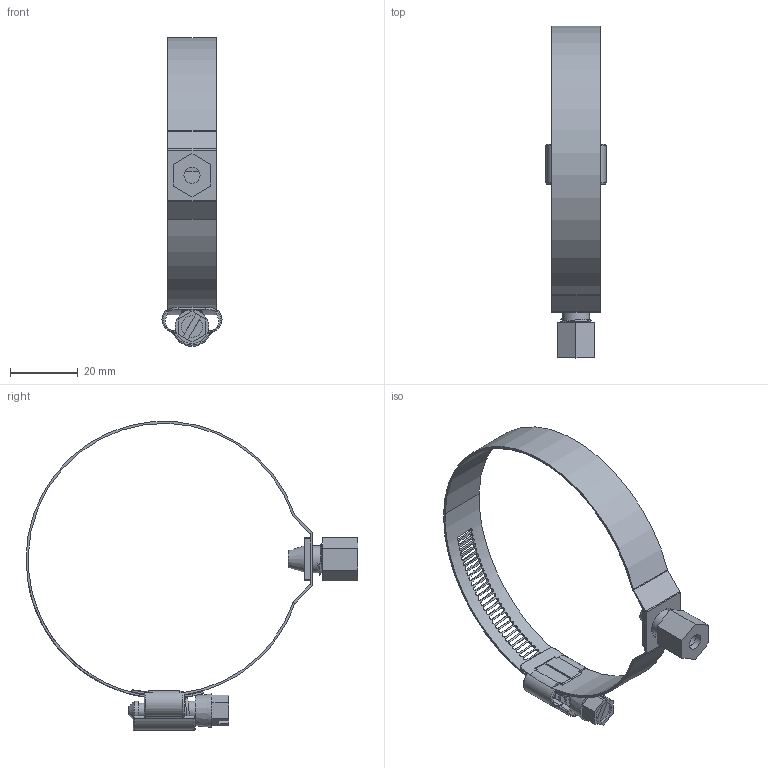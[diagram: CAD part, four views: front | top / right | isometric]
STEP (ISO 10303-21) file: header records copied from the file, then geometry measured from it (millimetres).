
FILE_DESCRIPTION(/* description */ (''),/* implementation_level */ '2;1');
FILE_NAME(/* name */ 'SPARE-MFLERCLMP-3.0 ASSEMBLY.stp',/* time_stamp */ '2022-08-04T14:35:36-04:00',/* author */ ('Justin'),/* organization */ (''),/* preprocessor_version */ 'ST-DEVELOPER v19.2',/* originating_system */ 'Autodesk Inventor 2023',/* authorisation */ '');
FILE_SCHEMA (('AUTOMOTIVE_DESIGN { 1 0 10303 214 3 1 1 }'));
Length unit declared in the file: inch
Products named in the file (7): HOSE CLAMP; Clamp REV A; WORM GEAR HOUSING; FERRULE SEAT; COMPRESSION SLEEVE; COMPRESSION NUT; Dynaflo Worm Screw
Assembly tree (6 placements, depth 2):
  HOSE CLAMP
    Clamp REV A
    WORM GEAR HOUSING
    FERRULE SEAT
    COMPRESSION SLEEVE
    COMPRESSION NUT
    Dynaflo Worm Screw
Bounding box: 17.78 x 98.3 x 91.43 mm (x, y, z)
Volume: 5469.9 mm3; surface area: 12770.3 mm2
Topology: 6 solids, 6 shells, 367 faces, 1024 edges, 678 vertices
Faces by surface type: cylinder 164, plane 158, torus 21, bspline 16, cone 8
Full cylindrical faces by diameter (mm): 4.47 x1, 4.762 x1, 4.775 x1, 4.953 x1, 5.588 x3, 8.026 x4, 8.376 x4, 8.382 x2, 9.525 x1
Entity records: 18116 total; most frequent: CARTESIAN_POINT 8495, ORIENTED_EDGE 2046, DIRECTION 1799, EDGE_CURVE 1023, AXIS2_PLACEMENT_3D 693, VERTEX_POINT 673, EDGE_LOOP 460, LINE 413
